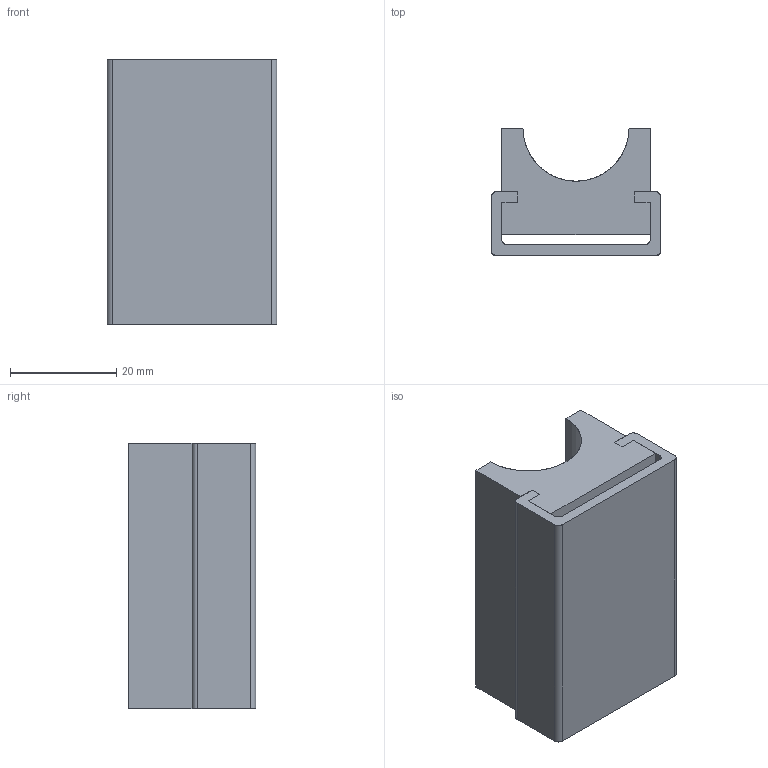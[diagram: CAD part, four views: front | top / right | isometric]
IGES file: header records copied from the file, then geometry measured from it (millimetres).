
Start section: SolidWorks IGES file using analytic representation for surfaces
Global section: file name: C:\Documents and Settings\ARGE\Desktop\yeni katalog tolgay düzenli\E kataloðu\ALPOLEN 1000 ÇELÝK PROFÝLLÝ KAYIÞ KLAVUZLARI\207 CC0 020.IGS; native system: SolidWorks 2006 by SolidWorks Corporation; preprocessor: SolidWorks 2006 by SolidWorks Corporation; author: ARGE2; date: 060912.172835; units: millimetre
Bounding box: 32 x 24 x 50 mm (x, y, z)
Surface area: 12855 mm2 (no closed solid volume)
Topology: 0 solids, 0 shells, 36 faces, 306 edges, 306 vertices
Faces by surface type: bspline 29, revolution 7
